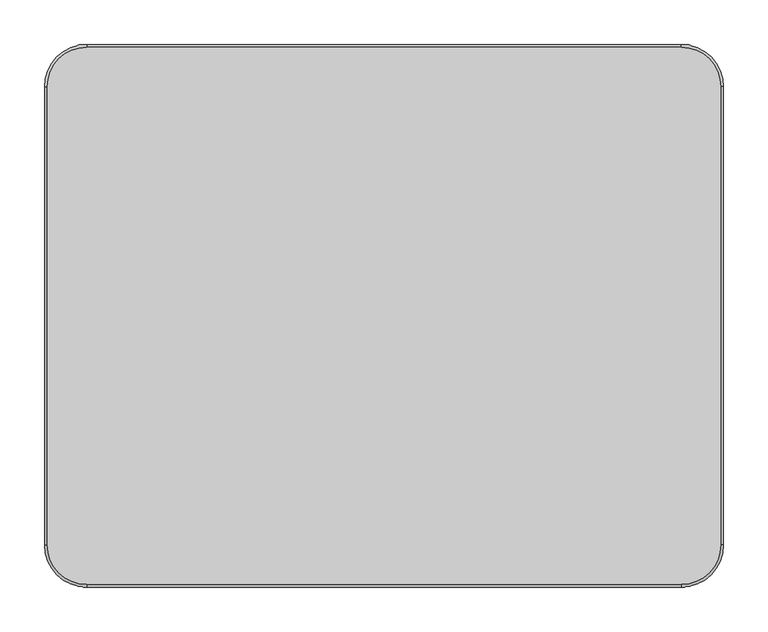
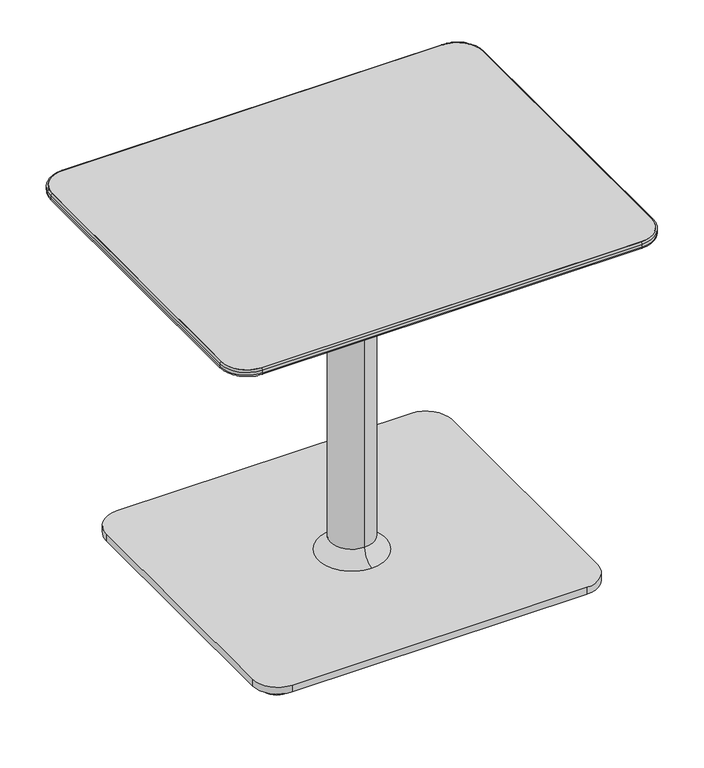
"""IFC4 building model written with IfcOpenShell, lengths in millimetres: furniture geometry, Coalesse_AM_Table_Occasional_Lagunitas_Work : 26H x 24D x 30W."""

from ifc_helpers import new_model, si_unit, point, frame, frame_2d, origin, origin_with_axes, place, context, project, spatial, polyline, circle_curve, ellipse_curve, trimmed, segment, composite_curve, outline, extrude, source, transform, mapped, element, save
from ifc_brep_helpers import plane_surface, cylinder_surface, revolved_surface, spline_surface, advanced_brep


def furniture_f893dfc3(model_context):
    return source(origin(), model_context, "Body", "SolidModel", [
        advanced_brep(
        [(378.2570059, 257.3038988, 648.3724172), (333.8070059, 301.7538988, 648.3724172), (-333.1969941, 301.7538988, 648.3724172), (-377.6469941, 257.3038988, 648.3724172), (-377.6469941, -257.3038988, 648.3724172), (-333.1969941, -301.7538988, 648.3724172), (333.8070059, -301.7538988, 648.3724172), (378.2570059, -257.3038988, 648.3724172), (310.4389826, 233.9365202, 630.3099277), (310.4389826, -233.9365202, 630.3099277), (-309.8289709, -233.9365202, 630.3099277), (-309.8289709, 233.9365202, 630.3099277)],
        [
            (0, 1, circle_curve(frame((333.8070059, 257.3038988, 648.3724172), z_axis=(0.0, 0.0, 1.0), x_axis=(1.0, 0.0, 0.0)), 44.45)),
            (1, 2),
            (2, 3, circle_curve(frame((-333.1969941, 257.3038988, 648.3724172), z_axis=(0.0, 0.0, 1.0), x_axis=(1.0, 0.0, 0.0)), 44.45)),
            (3, 4),
            (4, 5, circle_curve(frame((-333.1969941, -257.3038988, 648.3724172), z_axis=(0.0, 0.0, 1.0), x_axis=(1.0, 0.0, 0.0)), 44.45)),
            (5, 6),
            (6, 7, circle_curve(frame((333.8070059, -257.3038988, 648.3724172), z_axis=(0.0, 0.0, 1.0), x_axis=(1.0, 0.0, 0.0)), 44.45)),
            (7, 0),
            (8, 9),
            (9, 10),
            (10, 11),
            (11, 8),
            (0, 8),
            (8, 1),
            (11, 2),
            (11, 3),
            (10, 4),
            (10, 5),
            (9, 6),
            (9, 7),
        ],
        [
            plane_surface(frame((0.3050059, 0.0, 648.3724172), z_axis=(0.0, 0.0, 1.0), x_axis=(-1.0, 0.0, 0.0))),
            plane_surface(frame((0.3050059, 0.0, 630.3099277), z_axis=(0.0, 0.0, -1.0), x_axis=(-1.0, 0.0, 0.0))),
            spline_surface(2, 1, [[(310.4389826, 233.9365202, 630.3099277), (378.2570059, 257.3038988, 648.3724172)], [(310.4389826, 233.9365202, 630.3099277), (378.2570059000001, 301.75389880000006, 648.3724172)], [(310.4389826, 233.9365202, 630.3099277), (333.8070059, 301.7538988, 648.3724172)]], [3, 3], [2, 2], [0.0, 1.0], [0.0, 1.0], weights=[[1.0, 1.0], [0.7071067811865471, 0.7071067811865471], [1.0, 1.0]]),
            plane_surface(frame((0.3050059, 233.9365202, 630.3099277), z_axis=(0.0, 0.25736805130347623, -0.9663134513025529), x_axis=(-1.0, 0.0, 0.0))),
            spline_surface(2, 1, [[(-309.8289709, 233.9365202, 630.3099277), (-333.1969941, 301.7538988, 648.3724172)], [(-309.8289709, 233.9365202, 630.3099277), (-377.6469941, 301.7538988, 648.3724172)], [(-309.8289709, 233.9365202, 630.3099277), (-377.6469941, 257.3038988, 648.3724172)]], [3, 3], [2, 2], [0.0, 1.0], [0.0, 1.0], weights=[[1.0, 1.0], [0.7071067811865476, 0.7071067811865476], [1.0, 1.0]]),
            plane_surface(frame((-309.8289709, 0.0, 630.3099277), z_axis=(-0.2573657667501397, 0.0, -0.966314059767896), x_axis=(0.0, -1.0, 0.0))),
            spline_surface(2, 1, [[(-309.8289709, -233.9365202, 630.3099277), (-377.6469941, -257.3038988, 648.3724172)], [(-309.8289709, -233.9365202, 630.3099277), (-377.6469941, -301.7538988, 648.3724172)], [(-309.8289709, -233.9365202, 630.3099277), (-333.1969941, -301.7538988, 648.3724172)]], [3, 3], [2, 2], [0.0, 1.0], [0.0, 1.0], weights=[[1.0, 1.0], [0.7071067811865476, 0.7071067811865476], [1.0, 1.0]]),
            plane_surface(frame((0.3050059, -233.9365202, 630.3099277), z_axis=(0.0, -0.257368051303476, -0.966313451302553), x_axis=(1.0, 0.0, 0.0))),
            spline_surface(2, 1, [[(310.4389826, -233.9365202, 630.3099277), (333.8070059, -301.7538988, 648.3724172)], [(310.4389826, -233.9365202, 630.3099277), (378.25700589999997, -301.75389879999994, 648.3724172)], [(310.4389826, -233.9365202, 630.3099277), (378.2570059, -257.3038988, 648.3724172)]], [3, 3], [2, 2], [0.0, 1.0], [0.0, 1.0], weights=[[1.0, 1.0], [0.707106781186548, 0.707106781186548], [1.0, 1.0]]),
            plane_surface(frame((310.4389826, 0.0, 630.3099277), z_axis=(0.2573657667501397, 0.0, -0.966314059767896), x_axis=(0.0, 1.0, 0.0))),
        ],
        [
            (0, [[1, 2, 3, 4, 5, 6, 7, 8]]),
            (1, [[9, 10, 11, 12]]),
            (2, [[-1, 13, 14]]),
            (3, [[-12, 15, -2, -14]]),
            (4, [[-3, -15, 16]]),
            (5, [[-11, 17, -4, -16]]),
            (6, [[-5, -17, 18]]),
            (7, [[-10, 19, -6, -18]]),
            (8, [[-7, -19, 20]]),
            (9, [[-9, -13, -8, -20]]),
        ],
    ),
        extrude(outline(composite_curve([segment(trimmed(circle_curve(frame_2d((333.8070059, 257.3038988)), 44.45), [point((333.8070059, 301.7538988))], [point((378.2570059, 257.3038988))], False, "CARTESIAN"), True, "CONTINUOUS"), segment(polyline([(378.2570059, 257.3038988), (378.2570059, -257.3038988)]), True, "CONTINUOUS"), segment(trimmed(circle_curve(frame_2d((333.8070059, -257.3038988)), 44.45), [point((378.2570059, -257.3038988))], [point((333.8070059, -301.7538988))], False, "CARTESIAN"), True, "CONTINUOUS"), segment(polyline([(333.8070059, -301.7538988), (-333.1969941, -301.7538988)]), True, "CONTINUOUS"), segment(trimmed(circle_curve(frame_2d((-333.1969941, -257.3038988)), 44.45), [point((-333.1969941, -301.7538988))], [point((-377.6469941, -257.3038988))], False, "CARTESIAN"), True, "CONTINUOUS"), segment(polyline([(-377.6469941, -257.3038988), (-377.6469941, 257.3038988)]), True, "CONTINUOUS"), segment(trimmed(circle_curve(frame_2d((-333.1969941, 257.3038988)), 44.45), [point((-377.6469941, 257.3038988))], [point((-333.1969941, 301.7538988))], False, "CARTESIAN"), True, "CONTINUOUS"), segment(polyline([(-333.1969941, 301.7538988), (333.8070059, 301.7538988)]), True, "CONTINUOUS")], self_intersect=False)), frame((0.0, 0.0, 648.3724172), z_axis=(0.0, 0.0, 1.0), x_axis=(1.0, 0.0, 0.0)), (0.0, 0.0, 1.0), 12.0275828),
        extrude(outline(composite_curve([segment(trimmed(circle_curve(frame_2d((-263.0703146, 226.8029495)), 25.4), [point((-288.4703146, 226.8029495))], [point((-237.6703146, 226.8029495))], False, "CARTESIAN"), True, "CONTINUOUS"), segment(trimmed(circle_curve(frame_2d((-263.0703146, 226.8029495)), 25.4), [point((-237.6703146, 226.8029495))], [point((-288.4703146, 226.8029495))], False, "CARTESIAN"), True, "CONTINUOUS")], self_intersect=False)), origin_with_axes(), (0.0, 0.0, 1.0), 10.6571495),
        extrude(outline(composite_curve([segment(trimmed(circle_curve(frame_2d((263.6803263, 226.8029495)), 25.4), [point((238.2803263, 226.8029495))], [point((289.0803263, 226.8029495))], False, "CARTESIAN"), True, "CONTINUOUS"), segment(trimmed(circle_curve(frame_2d((263.6803263, 226.8029495)), 25.4), [point((289.0803263, 226.8029495))], [point((238.2803263, 226.8029495))], False, "CARTESIAN"), True, "CONTINUOUS")], self_intersect=False)), origin_with_axes(), (0.0, 0.0, 1.0), 10.6571495),
        extrude(outline(composite_curve([segment(trimmed(circle_curve(frame_2d((263.6803263, -226.8029495)), 25.4), [point((238.2803263, -226.8029495))], [point((289.0803263, -226.8029495))], False, "CARTESIAN"), True, "CONTINUOUS"), segment(trimmed(circle_curve(frame_2d((263.6803263, -226.8029495)), 25.4), [point((289.0803263, -226.8029495))], [point((238.2803263, -226.8029495))], False, "CARTESIAN"), True, "CONTINUOUS")], self_intersect=False)), origin_with_axes(), (0.0, 0.0, 1.0), 10.6571495),
        extrude(outline(composite_curve([segment(trimmed(circle_curve(frame_2d((-263.0703146, -226.8029495)), 25.4), [point((-288.4703146, -226.8029495))], [point((-237.6703146, -226.8029495))], False, "CARTESIAN"), True, "CONTINUOUS"), segment(trimmed(circle_curve(frame_2d((-263.0703146, -226.8029495)), 25.4), [point((-237.6703146, -226.8029495))], [point((-288.4703146, -226.8029495))], False, "CARTESIAN"), True, "CONTINUOUS")], self_intersect=False)), origin_with_axes(), (0.0, 0.0, 1.0), 10.6571495),
        extrude(outline(composite_curve([segment(trimmed(circle_curve(frame_2d((259.1310059, 222.2481833)), 44.45), [point((259.1310059, 266.6981833))], [point((303.5810059, 222.2481833))], False, "CARTESIAN"), True, "CONTINUOUS"), segment(polyline([(303.5810059, 222.2481833), (303.5810059, -222.2481833)]), True, "CONTINUOUS"), segment(trimmed(circle_curve(frame_2d((259.1310059, -222.2481833)), 44.45), [point((303.5810059, -222.2481833))], [point((259.1310059, -266.6981833))], False, "CARTESIAN"), True, "CONTINUOUS"), segment(polyline([(259.1310059, -266.6981833), (-258.5209941, -266.6981833)]), True, "CONTINUOUS"), segment(trimmed(circle_curve(frame_2d((-258.5209941, -222.2481833)), 44.45), [point((-258.5209941, -266.6981833))], [point((-302.9709941, -222.2481833))], False, "CARTESIAN"), True, "CONTINUOUS"), segment(polyline([(-302.9709941, -222.2481833), (-302.9709941, 222.2481833)]), True, "CONTINUOUS"), segment(trimmed(circle_curve(frame_2d((-258.5209941, 222.2481833)), 44.45), [point((-302.9709941, 222.2481833))], [point((-258.5209941, 266.6981833))], False, "CARTESIAN"), True, "CONTINUOUS"), segment(polyline([(-258.5209941, 266.6981833), (259.1310059, 266.6981833)]), True, "CONTINUOUS")], self_intersect=False)), frame((0.0, 0.0, 10.6571495), z_axis=(0.0, 0.0, 1.0), x_axis=(1.0, 0.0, 0.0)), (0.0, 0.0, 1.0), 12.7000004),
        advanced_brep(
        [(-380.6930954, 257.3038988, 652.1656816), (-333.1969941, 304.8, 652.1656816), (-333.1969941, 301.7538988, 648.3724172), (-377.6469941, 257.3038988, 648.3724172), (-380.6930954, 257.3038988, 657.3538988), (-333.1969941, 304.8, 657.3538988), (-377.6469941, 257.3038988, 660.4), (-333.1969941, 301.7538988, 660.4), (-377.6469941, -257.3038988, 648.3724172), (-380.6930954, -257.3038988, 652.1656816), (-380.6930954, -257.3038988, 657.3538988), (-377.6469941, -257.3038988, 660.4), (-333.1969941, -304.8, 652.1656816), (-333.1969941, -301.7538988, 648.3724172), (-333.1969941, -304.8, 657.3538988), (-333.1969941, -301.7538988, 660.4), (333.8070059, -301.7538988, 648.3724172), (333.8070059, -304.8, 652.1656816), (333.8070059, -304.8, 657.3538988), (333.8070059, -301.7538988, 660.4), (381.3031071, -257.3038988, 652.1656816), (378.2570059, -257.3038988, 648.3724172), (381.3031071, -257.3038988, 657.3538988), (378.2570059, -257.3038988, 660.4), (378.2570059, 257.3038988, 648.3724172), (381.3031071, 257.3038988, 652.1656816), (381.3031071, 257.3038988, 657.3538988), (378.2570059, 257.3038988, 660.4), (333.8070059, 304.8, 652.1656816), (333.8070059, 301.7538988, 648.3724172), (333.8070059, 304.8, 657.3538988), (333.8070059, 301.7538988, 660.4)],
        [
            (0, 1, circle_curve(frame((-333.1969941, 257.3038988, 652.1656816), z_axis=(0.0, 0.0, -1.0), x_axis=(0.0, 1.0, 0.0)), 47.4961012)),
            (1, 2, circle_curve(frame((-333.1969941, 300.9151017, 652.1656816), z_axis=(-1.0, 0.0, 0.0), x_axis=(0.0, -1.0, 0.0)), 3.8848983)),
            (2, 3, circle_curve(frame((-333.1969941, 257.3038988, 648.3724172), z_axis=(0.0, 0.0, 1.0), x_axis=(0.0, 1.0, 0.0)), 44.45)),
            (3, 0, circle_curve(frame((-376.8081971, 257.3038988, 652.1656816), z_axis=(0.0, 1.0, 0.0), x_axis=(1.0, 0.0, 0.0)), 3.8848983)),
            (4, 5, circle_curve(frame((-333.1969941, 257.3038988, 657.3538988), z_axis=(0.0, 0.0, -1.0), x_axis=(0.0, 1.0, 0.0)), 47.4961012)),
            (5, 1),
            (0, 4),
            (6, 7, circle_curve(frame((-333.1969941, 257.3038988, 660.4), z_axis=(0.0, 0.0, -1.0), x_axis=(0.0, 1.0, 0.0)), 44.45)),
            (7, 5, circle_curve(frame((-333.1969941, 301.7538988, 657.3538988), z_axis=(-1.0, 0.0, 0.0), x_axis=(0.0, -1.0, 0.0)), 3.0461012)),
            (4, 6, circle_curve(frame((-377.6469941, 257.3038988, 657.3538988), z_axis=(0.0, 1.0, 0.0), x_axis=(1.0, 0.0, 0.0)), 3.0461012)),
            (2, 7),
            (6, 3),
            (3, 8),
            (8, 9, circle_curve(frame((-376.8081971, -257.3038988, 652.1656816), z_axis=(0.0, 1.0, 0.0), x_axis=(1.0, 0.0, 0.0)), 3.8848983)),
            (9, 0),
            (9, 10),
            (10, 4),
            (10, 11, circle_curve(frame((-377.6469941, -257.3038988, 657.3538988), z_axis=(0.0, 1.0, 0.0), x_axis=(1.0, 0.0, 0.0)), 3.0461012)),
            (11, 6),
            (11, 8),
            (12, 9, circle_curve(frame((-333.1969941, -257.3038988, 652.1656816), z_axis=(0.0, 0.0, -1.0), x_axis=(-1.0, 0.0, 0.0)), 47.4961012)),
            (8, 13, circle_curve(frame((-333.1969941, -257.3038988, 648.3724172), z_axis=(0.0, 0.0, 1.0), x_axis=(-1.0, 0.0, 0.0)), 44.45)),
            (13, 12, circle_curve(frame((-333.1969941, -300.9151017, 652.1656816), z_axis=(-1.0, 0.0, 0.0), x_axis=(0.0, 1.0, 0.0)), 3.8848983)),
            (14, 10, circle_curve(frame((-333.1969941, -257.3038988, 657.3538988), z_axis=(0.0, 0.0, -1.0), x_axis=(-1.0, 0.0, 0.0)), 47.4961012)),
            (12, 14),
            (15, 11, circle_curve(frame((-333.1969941, -257.3038988, 660.4), z_axis=(0.0, 0.0, -1.0), x_axis=(-1.0, 0.0, 0.0)), 44.45)),
            (14, 15, circle_curve(frame((-333.1969941, -301.7538988, 657.3538988), z_axis=(-1.0, 0.0, 0.0), x_axis=(0.0, 1.0, 0.0)), 3.0461012)),
            (15, 13),
            (13, 16),
            (16, 17, circle_curve(frame((333.8070059, -300.9151017, 652.1656816), z_axis=(-1.0, 0.0, 0.0), x_axis=(0.0, 1.0, 0.0)), 3.8848983)),
            (17, 12),
            (17, 18),
            (18, 14),
            (18, 19, circle_curve(frame((333.8070059, -301.7538988, 657.3538988), z_axis=(-1.0, 0.0, 0.0), x_axis=(0.0, 1.0, 0.0)), 3.0461012)),
            (19, 15),
            (19, 16),
            (20, 17, circle_curve(frame((333.8070059, -257.3038988, 652.1656816), z_axis=(0.0, 0.0, -1.0), x_axis=(0.0, -1.0, 0.0)), 47.4961012)),
            (16, 21, circle_curve(frame((333.8070059, -257.3038988, 648.3724172), z_axis=(0.0, 0.0, 1.0), x_axis=(0.0, -1.0, 0.0)), 44.45)),
            (21, 20, circle_curve(frame((377.4182088, -257.3038988, 652.1656816), z_axis=(0.0, -1.0, 0.0), x_axis=(-1.0, 0.0, 0.0)), 3.8848983)),
            (22, 18, circle_curve(frame((333.8070059, -257.3038988, 657.3538988), z_axis=(0.0, 0.0, -1.0), x_axis=(0.0, -1.0, 0.0)), 47.4961012)),
            (20, 22),
            (23, 19, circle_curve(frame((333.8070059, -257.3038988, 660.4), z_axis=(0.0, 0.0, -1.0), x_axis=(0.0, -1.0, 0.0)), 44.45)),
            (22, 23, circle_curve(frame((378.2570059, -257.3038988, 657.3538988), z_axis=(0.0, -1.0, 0.0), x_axis=(-1.0, 0.0, 0.0)), 3.0461012)),
            (23, 21),
            (21, 24),
            (24, 25, circle_curve(frame((377.4182088, 257.3038988, 652.1656816), z_axis=(0.0, -1.0, 0.0), x_axis=(-1.0, 0.0, 0.0)), 3.8848983)),
            (25, 20),
            (25, 26),
            (26, 22),
            (26, 27, circle_curve(frame((378.2570059, 257.3038988, 657.3538988), z_axis=(0.0, -1.0, 0.0), x_axis=(-1.0, 0.0, 0.0)), 3.0461012)),
            (27, 23),
            (27, 24),
            (28, 25, circle_curve(frame((333.8070059, 257.3038988, 652.1656816), z_axis=(0.0, 0.0, -1.0), x_axis=(1.0, 0.0, 0.0)), 47.4961012)),
            (24, 29, circle_curve(frame((333.8070059, 257.3038988, 648.3724172), z_axis=(0.0, 0.0, 1.0), x_axis=(1.0, 0.0, 0.0)), 44.45)),
            (29, 28, circle_curve(frame((333.8070059, 300.9151017, 652.1656816), z_axis=(1.0, 0.0, 0.0), x_axis=(0.0, -1.0, 0.0)), 3.8848983)),
            (30, 26, circle_curve(frame((333.8070059, 257.3038988, 657.3538988), z_axis=(0.0, 0.0, -1.0), x_axis=(1.0, 0.0, 0.0)), 47.4961012)),
            (28, 30),
            (31, 27, circle_curve(frame((333.8070059, 257.3038988, 660.4), z_axis=(0.0, 0.0, -1.0), x_axis=(1.0, 0.0, 0.0)), 44.45)),
            (30, 31, circle_curve(frame((333.8070059, 301.7538988, 657.3538988), z_axis=(1.0, 0.0, 0.0), x_axis=(0.0, -1.0, 0.0)), 3.0461012)),
            (31, 29),
            (29, 2),
            (1, 28),
            (5, 30),
            (7, 31),
        ],
        [
            revolved_surface(trimmed(ellipse_curve(frame((-333.1969941, 300.9151017, 652.1656816), z_axis=(1.0, 0.0, 0.0), x_axis=(0.0, -1.0, 0.0)), 3.8848983, 3.8848983), [point((-333.1969941, 301.7538988, 648.3724172))], [point((-333.1969941, 304.8, 652.1656816))], True, "CARTESIAN"), (-333.1969941, 257.3038988, 0.0), (0.0, 0.0, 1.0)),
            cylinder_surface(frame((-333.1969941, 257.3038988, 0.0), z_axis=(0.0, 0.0, 1.0), x_axis=(0.0, 1.0, 0.0)), 47.4961012),
            revolved_surface(trimmed(ellipse_curve(frame((-333.1969941, 301.7538988, 657.3538988), z_axis=(1.0, 0.0, 0.0), x_axis=(0.0, -1.0, 0.0)), 3.0461012, 3.0461012), [point((-333.1969941, 304.8, 657.3538988))], [point((-333.1969941, 301.7538988, 660.4))], True, "CARTESIAN"), (-333.1969941, 257.3038988, 0.0), (0.0, 0.0, 1.0)),
            revolved_surface(polyline([(-333.1969941, 301.7538988, 660.4), (-333.1969941, 301.7538988, 648.3724172)]), (-333.1969941, 257.3038988, 0.0), (0.0, 0.0, 1.0)),
            cylinder_surface(frame((-376.8081971, 257.3038988, 652.1656816), z_axis=(0.0, 1.0, 0.0), x_axis=(1.0, 0.0, 0.0)), 3.8848983),
            plane_surface(frame((-380.6930954, 257.3038988, 652.1656816), z_axis=(-1.0, 0.0, 0.0), x_axis=(0.0, -1.0, 0.0))),
            cylinder_surface(frame((-377.6469941, 257.3038988, 657.3538988), z_axis=(0.0, 1.0, 0.0), x_axis=(1.0, 0.0, 0.0)), 3.0461012),
            plane_surface(frame((-377.6469941, 257.3038988, 660.4), z_axis=(1.0, 0.0, 0.0), x_axis=(0.0, -1.0, 0.0))),
            revolved_surface(trimmed(ellipse_curve(frame((-376.8081971, -257.3038988, 652.1656816), z_axis=(0.0, 1.0, 0.0), x_axis=(1.0, 0.0, 0.0)), 3.8848983, 3.8848983), [point((-377.6469941, -257.3038988, 648.3724172))], [point((-380.6930954, -257.3038988, 652.1656816))], True, "CARTESIAN"), (-333.1969941, -257.3038988, 0.0), (0.0, 0.0, 1.0)),
            cylinder_surface(frame((-333.1969941, -257.3038988, 0.0), z_axis=(0.0, 0.0, 1.0), x_axis=(-1.0, 0.0, 0.0)), 47.4961012),
            revolved_surface(trimmed(ellipse_curve(frame((-377.6469941, -257.3038988, 657.3538988), z_axis=(0.0, 1.0, 0.0), x_axis=(1.0, 0.0, 0.0)), 3.0461012, 3.0461012), [point((-380.6930954, -257.3038988, 657.3538988))], [point((-377.6469941, -257.3038988, 660.4))], True, "CARTESIAN"), (-333.1969941, -257.3038988, 0.0), (0.0, 0.0, 1.0)),
            revolved_surface(polyline([(-377.6469941, -257.3038988, 660.4), (-377.6469941, -257.3038988, 648.3724172)]), (-333.1969941, -257.3038988, 0.0), (0.0, 0.0, 1.0)),
            cylinder_surface(frame((-333.1969941, -300.9151017, 652.1656816), z_axis=(-1.0, 0.0, 0.0), x_axis=(0.0, 1.0, 0.0)), 3.8848983),
            plane_surface(frame((-333.1969941, -304.8, 652.1656816), z_axis=(0.0, -1.0, 0.0), x_axis=(1.0, 0.0, 0.0))),
            cylinder_surface(frame((-333.1969941, -301.7538988, 657.3538988), z_axis=(-1.0, 0.0, 0.0), x_axis=(0.0, 1.0, 0.0)), 3.0461012),
            plane_surface(frame((-333.1969941, -301.7538988, 660.4), z_axis=(0.0, 1.0, 0.0), x_axis=(1.0, 0.0, 0.0))),
            revolved_surface(trimmed(ellipse_curve(frame((333.8070059, -300.9151017, 652.1656816), z_axis=(-1.0, 0.0, 0.0), x_axis=(0.0, 1.0, 0.0)), 3.8848983, 3.8848983), [point((333.8070059, -301.7538988, 648.3724172))], [point((333.8070059, -304.8, 652.1656816))], True, "CARTESIAN"), (333.8070059, -257.3038988, 0.0), (0.0, 0.0, 1.0)),
            cylinder_surface(frame((333.8070059, -257.3038988, 0.0), z_axis=(0.0, 0.0, 1.0), x_axis=(0.0, -1.0, 0.0)), 47.4961012),
            revolved_surface(trimmed(ellipse_curve(frame((333.8070059, -301.7538988, 657.3538988), z_axis=(-1.0, 0.0, 0.0), x_axis=(0.0, 1.0, 0.0)), 3.0461012, 3.0461012), [point((333.8070059, -304.8, 657.3538988))], [point((333.8070059, -301.7538988, 660.4))], True, "CARTESIAN"), (333.8070059, -257.3038988, 0.0), (0.0, 0.0, 1.0)),
            revolved_surface(polyline([(333.8070059, -301.7538988, 660.4), (333.8070059, -301.7538988, 648.3724172)]), (333.8070059, -257.3038988, 0.0), (0.0, 0.0, 1.0)),
            cylinder_surface(frame((377.4182088, -257.3038988, 652.1656816), z_axis=(0.0, -1.0, 0.0), x_axis=(-1.0, 0.0, 0.0)), 3.8848983),
            plane_surface(frame((381.3031071, -257.3038988, 652.1656816), z_axis=(1.0, 0.0, 0.0), x_axis=(0.0, 1.0, 0.0))),
            cylinder_surface(frame((378.2570059, -257.3038988, 657.3538988), z_axis=(0.0, -1.0, 0.0), x_axis=(-1.0, 0.0, 0.0)), 3.0461012),
            plane_surface(frame((378.2570059, -257.3038988, 660.4), z_axis=(-1.0, 0.0, 0.0), x_axis=(0.0, 1.0, 0.0))),
            revolved_surface(trimmed(ellipse_curve(frame((377.4182088, 257.3038988, 652.1656816), z_axis=(0.0, -1.0, 0.0), x_axis=(-1.0, 0.0, 0.0)), 3.8848983, 3.8848983), [point((378.2570059, 257.3038988, 648.3724172))], [point((381.3031071, 257.3038988, 652.1656816))], True, "CARTESIAN"), (333.8070059, 257.3038988, 0.0), (0.0, 0.0, 1.0)),
            cylinder_surface(frame((333.8070059, 257.3038988, 0.0), z_axis=(0.0, 0.0, 1.0), x_axis=(1.0, 0.0, 0.0)), 47.4961012),
            revolved_surface(trimmed(ellipse_curve(frame((378.2570059, 257.3038988, 657.3538988), z_axis=(0.0, -1.0, 0.0), x_axis=(-1.0, 0.0, 0.0)), 3.0461012, 3.0461012), [point((381.3031071, 257.3038988, 657.3538988))], [point((378.2570059, 257.3038988, 660.4))], True, "CARTESIAN"), (333.8070059, 257.3038988, 0.0), (0.0, 0.0, 1.0)),
            revolved_surface(polyline([(378.25700589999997, 257.3038988, 660.4), (378.25700589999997, 257.3038988, 648.3724172)]), (333.8070059, 257.3038988, 0.0), (0.0, 0.0, 1.0)),
            cylinder_surface(frame((333.8070059, 300.9151017, 652.1656816), z_axis=(1.0, 0.0, 0.0), x_axis=(0.0, -1.0, 0.0)), 3.8848983),
            plane_surface(frame((333.8070059, 304.8, 652.1656816), z_axis=(0.0, 1.0, 0.0), x_axis=(-1.0, 0.0, 0.0))),
            cylinder_surface(frame((333.8070059, 301.7538988, 657.3538988), z_axis=(1.0, 0.0, 0.0), x_axis=(0.0, -1.0, 0.0)), 3.0461012),
            plane_surface(frame((333.8070059, 301.7538988, 660.4), z_axis=(0.0, -1.0, 0.0), x_axis=(-1.0, 0.0, 0.0))),
        ],
        [
            (0, [[1, 2, 3, 4]]),
            (1, [[5, 6, -1, 7]]),
            (2, [[8, 9, -5, 10]]),
            (3, [[-3, 11, -8, 12]]),
            (4, [[-4, 13, 14, 15]]),
            (5, [[-7, -15, 16, 17]]),
            (6, [[-10, -17, 18, 19]]),
            (7, [[-12, -19, 20, -13]]),
            (8, [[21, -14, 22, 23]]),
            (9, [[24, -16, -21, 25]]),
            (10, [[26, -18, -24, 27]]),
            (11, [[-22, -20, -26, 28]]),
            (12, [[-23, 29, 30, 31]]),
            (13, [[-25, -31, 32, 33]]),
            (14, [[-27, -33, 34, 35]]),
            (15, [[-28, -35, 36, -29]]),
            (16, [[37, -30, 38, 39]]),
            (17, [[40, -32, -37, 41]]),
            (18, [[42, -34, -40, 43]]),
            (19, [[-38, -36, -42, 44]]),
            (20, [[-39, 45, 46, 47]]),
            (21, [[-41, -47, 48, 49]]),
            (22, [[-43, -49, 50, 51]]),
            (23, [[-44, -51, 52, -45]]),
            (24, [[53, -46, 54, 55]]),
            (25, [[56, -48, -53, 57]]),
            (26, [[58, -50, -56, 59]]),
            (27, [[-54, -52, -58, 60]]),
            (28, [[-55, 61, -2, 62]]),
            (29, [[-57, -62, -6, 63]]),
            (30, [[-59, -63, -9, 64]]),
            (31, [[-60, -64, -11, -61]]),
        ],
    ),
        advanced_brep(
        [(0.3050059, -37.9287895, 500.8567695), (0.3050059, 37.9287895, 500.8567695), (0.3050059, 37.9287895, 50.0429711), (0.3050059, -37.9287895, 50.0429711), (0.3050059, -59.3395816, 538.8698908), (0.3050059, 59.3395816, 538.8698908), (0.3050059, -197.9068019, 622.8534968), (0.3050059, 197.9068019, 622.8534968), (0.3050059, -212.4265152, 626.9101307), (0.3050059, 212.4265152, 626.9101307), (0.3050059, -226.4292749, 626.9101307), (0.3050059, 226.4292749, 626.9101307), (0.3050059, -228.4774392, 630.3099277), (0.3050059, 228.4774392, 630.3099277), (0.3050059, 0.0, 630.3099277), (0.3050059, -60.2304855, 23.3571499), (0.3050059, 60.2304855, 23.3571499), (0.3050059, 0.0, 23.3571499)],
        [
            (0, 1, circle_curve(frame((0.3050059, 0.0, 500.8567695), z_axis=(0.0, 0.0, -1.0), x_axis=(0.0, 1.0, 0.0)), 37.9287895)),
            (1, 2),
            (2, 3, circle_curve(frame((0.3050059, 0.0, 50.0429711), z_axis=(0.0, 0.0, 1.0), x_axis=(0.0, 1.0, 0.0)), 37.9287895)),
            (3, 0),
            (1, 0, circle_curve(frame((0.3050059, 0.0, 500.8567695), z_axis=(0.0, 0.0, -1.0), x_axis=(0.0, 1.0, 0.0)), 37.9287895)),
            (3, 2, circle_curve(frame((0.3050059, 0.0, 50.0429711), z_axis=(0.0, 0.0, 1.0), x_axis=(0.0, 1.0, 0.0)), 37.9287895)),
            (4, 5, circle_curve(frame((0.3050059, 0.0, 538.8698908), z_axis=(0.0, 0.0, -1.0), x_axis=(0.0, 1.0, 0.0)), 59.3395816)),
            (5, 1, circle_curve(frame((0.3050059, 82.3787895, 500.8567695), z_axis=(1.0, 0.0, 0.0), x_axis=(0.0, 1.0, 0.0)), 44.45)),
            (0, 4, circle_curve(frame((0.3050059, -82.3787895, 500.8567695), z_axis=(1.0, 0.0, 0.0), x_axis=(0.0, -1.0, 0.0)), 44.45)),
            (5, 4, circle_curve(frame((0.3050059, 0.0, 538.8698908), z_axis=(0.0, 0.0, -1.0), x_axis=(0.0, 1.0, 0.0)), 59.3395816)),
            (6, 7, circle_curve(frame((0.3050059, 0.0, 622.8534968), z_axis=(0.0, 0.0, -1.0), x_axis=(0.0, 1.0, 0.0)), 197.9068019)),
            (7, 5),
            (4, 6),
            (7, 6, circle_curve(frame((0.3050059, 0.0, 622.8534968), z_axis=(0.0, 0.0, -1.0), x_axis=(0.0, 1.0, 0.0)), 197.9068019)),
            (8, 9, circle_curve(frame((0.3050059, 0.0, 626.9101307), z_axis=(0.0, 0.0, -1.0), x_axis=(0.0, 1.0, 0.0)), 212.4265152)),
            (9, 7, circle_curve(frame((0.3050059, 212.4265152, 598.8969605), z_axis=(1.0, 0.0, 0.0), x_axis=(0.0, 1.0, 0.0)), 28.0131702)),
            (6, 8, circle_curve(frame((0.3050059, -212.4265152, 598.8969605), z_axis=(1.0, 0.0, 0.0), x_axis=(0.0, -1.0, 0.0)), 28.0131702)),
            (9, 8, circle_curve(frame((0.3050059, 0.0, 626.9101307), z_axis=(0.0, 0.0, -1.0), x_axis=(0.0, 1.0, 0.0)), 212.4265152)),
            (10, 11, circle_curve(frame((0.3050059, 0.0, 626.9101307), z_axis=(0.0, 0.0, -1.0), x_axis=(0.0, 1.0, 0.0)), 226.4292749)),
            (11, 9),
            (8, 10),
            (11, 10, circle_curve(frame((0.3050059, 0.0, 626.9101307), z_axis=(0.0, 0.0, -1.0), x_axis=(0.0, 1.0, 0.0)), 226.4292749)),
            (12, 13, circle_curve(frame((0.3050059, 0.0, 630.3099277), z_axis=(0.0, 0.0, -1.0), x_axis=(0.0, 1.0, 0.0)), 228.4774392)),
            (13, 11, circle_curve(frame((0.3050059, 226.4292749, 629.2269744), z_axis=(-1.0, 0.0, 0.0), x_axis=(0.0, 1.0, 0.0)), 2.3168437)),
            (10, 12, circle_curve(frame((0.3050059, -226.4292749, 629.2269744), z_axis=(-1.0, 0.0, 0.0), x_axis=(0.0, -1.0, 0.0)), 2.3168437)),
            (13, 12, circle_curve(frame((0.3050059, 0.0, 630.3099277), z_axis=(0.0, 0.0, -1.0), x_axis=(0.0, 1.0, 0.0)), 228.4774392)),
            (14, 13),
            (12, 14),
            (15, 16, circle_curve(frame((0.3050059, 0.0, 23.3571499), z_axis=(0.0, 0.0, -1.0), x_axis=(0.0, 1.0, 0.0)), 60.2304855)),
            (16, 17),
            (17, 15),
            (16, 15, circle_curve(frame((0.3050059, 0.0, 23.3571499), z_axis=(0.0, 0.0, -1.0), x_axis=(0.0, 1.0, 0.0)), 60.2304855)),
            (2, 16, circle_curve(frame((0.3050059, 65.045532, 50.0429711), z_axis=(1.0, 0.0, 0.0), x_axis=(0.0, 1.0, 0.0)), 27.1167425)),
            (15, 3, circle_curve(frame((0.3050059, -65.045532, 50.0429711), z_axis=(1.0, 0.0, 0.0), x_axis=(0.0, -1.0, 0.0)), 27.1167425)),
        ],
        [
            cylinder_surface(frame((0.3050059, 0.0, 738.2745102), z_axis=(0.0, 0.0, 1.0), x_axis=(0.0, 1.0, 0.0)), 37.9287895),
            revolved_surface(trimmed(ellipse_curve(frame((0.3050059, 82.3787895, 500.8567695), z_axis=(-1.0, 0.0, 0.0), x_axis=(0.0, 1.0, 0.0)), 44.45, 44.45), [point((0.3050059, 37.9287895, 500.8567695))], [point((0.3050059, 59.3395816, 538.8698908))], True, "CARTESIAN"), (0.3050059, 0.0, 738.2745102), (0.0, 0.0, 1.0)),
            revolved_surface(polyline([(0.3050059, 59.3395816, 538.8698908), (0.3050059, 197.9068019, 622.8534968)]), (0.3050059, 0.0, 738.2745102), (0.0, 0.0, 1.0)),
            revolved_surface(trimmed(ellipse_curve(frame((0.3050059, 212.4265152, 598.8969605), z_axis=(-1.0, 0.0, 0.0), x_axis=(0.0, 1.0, 0.0)), 28.0131702, 28.0131702), [point((0.3050059, 197.9068019, 622.8534968))], [point((0.3050059, 212.4265152, 626.9101307))], True, "CARTESIAN"), (0.3050059, 0.0, 738.2745102), (0.0, 0.0, 1.0)),
            plane_surface(frame((0.3050059, 0.0, 626.9101307), z_axis=(0.0, 0.0, -1.0), x_axis=(0.0, 1.0, 0.0))),
            revolved_surface(trimmed(ellipse_curve(frame((0.3050059, 226.4292749, 629.2269744), z_axis=(1.0, 0.0, 0.0), x_axis=(0.0, 1.0, 0.0)), 2.3168437, 2.3168437), [point((0.3050059, 226.4292749, 626.9101307))], [point((0.3050059, 228.4774392, 630.3099277))], True, "CARTESIAN"), (0.3050059, 0.0, 738.2745102), (0.0, 0.0, 1.0)),
            plane_surface(frame((0.3050059, 0.0, 630.3099277), z_axis=(0.0, 0.0, 1.0), x_axis=(0.0, 1.0, 0.0))),
            plane_surface(frame((0.3050059, 0.0, 23.3571499), z_axis=(0.0, 0.0, -1.0), x_axis=(0.0, 1.0, 0.0))),
            revolved_surface(trimmed(ellipse_curve(frame((0.3050059, 65.045532, 50.0429711), z_axis=(-1.0, 0.0, 0.0), x_axis=(0.0, 1.0, 0.0)), 27.1167425, 27.1167425), [point((0.3050059, 60.2304855, 23.3571499))], [point((0.3050059, 37.9287895, 50.0429711))], True, "CARTESIAN"), (0.3050059, 0.0, 738.2745102), (0.0, 0.0, 1.0)),
        ],
        [
            (0, [[1, 2, 3, 4]]),
            (0, [[5, -4, 6, -2]]),
            (1, [[7, 8, -1, 9]]),
            (1, [[10, -9, -5, -8]]),
            (2, [[11, 12, -7, 13]]),
            (2, [[14, -13, -10, -12]]),
            (3, [[15, 16, -11, 17]]),
            (3, [[18, -17, -14, -16]]),
            (4, [[19, 20, -15, 21]]),
            (4, [[22, -21, -18, -20]]),
            (5, [[23, 24, -19, 25]]),
            (5, [[26, -25, -22, -24]]),
            (6, [[27, -23, 28]]),
            (6, [[-28, -26, -27]]),
            (7, [[29, 30, 31]]),
            (7, [[32, -31, -30]]),
            (8, [[-3, 33, -29, 34]]),
            (8, [[-6, -34, -32, -33]]),
        ],
    ),
    ])


if __name__ == "__main__":
    model = new_model("IFC4")
    model_context = context("Model", 3, world=origin())
    ifc_project = project(units=[si_unit("LENGTHUNIT", "METRE", prefix="MILLI")], contexts=[model_context])
    site = spatial("IfcSite", under=ifc_project)
    building = spatial("IfcBuilding", under=site)
    placement = place(None, origin())
    furniture_shape = furniture_f893dfc3(model_context)
    element("IfcFurniture", 1, ObjectType="Coalesse_AM_Table_Occasional_Lagunitas_Work : 26H x 24D x 30W", at=placement, inside=building, context=model_context, shape_type="MappedRepresentation", body=[
        mapped(furniture_shape, transform((0.0, 0.0, 0.0), x_axis=(1.0, 0.0, 0.0), y_axis=(0.0, 1.0, 0.0), z_axis=(0.0, 0.0, 1.0))),
    ])
    save(model, "model.ifc")
